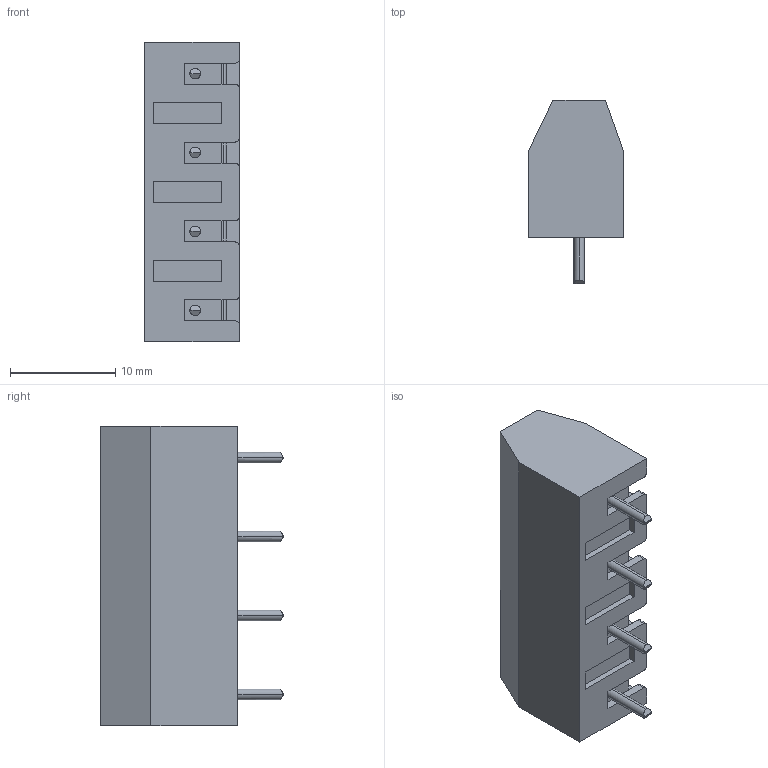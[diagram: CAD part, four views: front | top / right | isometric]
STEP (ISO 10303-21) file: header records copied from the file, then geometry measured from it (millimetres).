
FILE_DESCRIPTION (( 'STEP AP214' ), '1' );
FILE_NAME ('977-OP-DS-04.STEP', '2008-01-09T18:13:14', ( 'weco' ), ( 'weco' ), 'SwSTEP 2.0', 'SolidWorks 2007', '' );
FILE_SCHEMA (( 'AUTOMOTIVE_DESIGN' ));
Length unit declared in the file: millimetre
Products named in the file (1): 977-OP-DS-04
Bounding box: 9 x 17.4 x 28.5 mm (x, y, z)
Volume: 2438 mm3; surface area: 2379.3 mm2
Topology: 1 solids, 1 shells, 345 faces, 959 edges, 626 vertices
Faces by surface type: plane 199, cylinder 110, cone 24, bspline 12
Entity records: 11512 total; most frequent: CARTESIAN_POINT 2563, ORIENTED_EDGE 1918, DIRECTION 1815, EDGE_CURVE 959, VERTEX_POINT 626, VECTOR 611, LINE 611, AXIS2_PLACEMENT_3D 602
